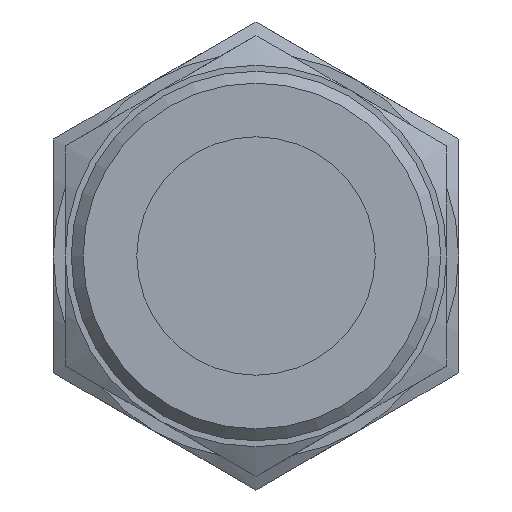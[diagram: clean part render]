
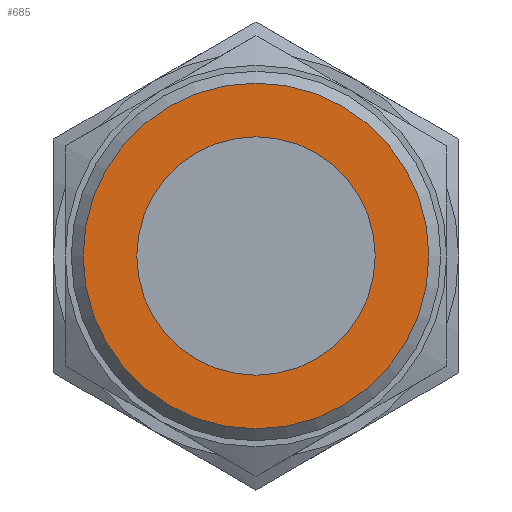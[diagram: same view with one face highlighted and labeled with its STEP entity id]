
A CAD part, left-side view. The second image highlights one B-rep face of the part: STEP entity #685.
In plain terms, the highlighted planar face has unit normal (-1, 0, 0).
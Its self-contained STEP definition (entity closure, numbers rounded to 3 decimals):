
#86=PLANE($,#750);
#115=FACE_BOUND($,#192,.T.);
#116=FACE_BOUND($,#193,.T.);
#192=EDGE_LOOP($,(#463));
#193=EDGE_LOOP($,(#464));
#253=CIRCLE($,#743,5.);
#255=CIRCLE($,#747,7.25);
#292=VERTEX_POINT($,#1041);
#294=VERTEX_POINT($,#1047);
#355=EDGE_CURVE($,#292,#292,#253,.T.);
#357=EDGE_CURVE($,#294,#294,#255,.T.);
#463=ORIENTED_EDGE($,*,*,#355,.T.);
#464=ORIENTED_EDGE($,*,*,#357,.F.);
#685=ADVANCED_FACE($,(#115,#116),#86,.F.);
#743=AXIS2_PLACEMENT_3D($,#1042,#846,#847);
#747=AXIS2_PLACEMENT_3D($,#1048,#854,#855);
#750=AXIS2_PLACEMENT_3D($,#1052,#860,#861);
#846=DIRECTION('center_axis',(1.,0.,0.));
#847=DIRECTION('ref_axis',(0.,-1.,0.));
#854=DIRECTION('center_axis',(1.,0.,0.));
#855=DIRECTION('ref_axis',(0.,0.,
-1.));
#860=DIRECTION('center_axis',(1.,0.,0.));
#861=DIRECTION('ref_axis',(0.,0.,-1.));
#1041=CARTESIAN_POINT('',(-24.5,-5.,0.));
#1042=CARTESIAN_POINT('Origin',(-24.5,0.,0.));
#1047=CARTESIAN_POINT('',(-24.5,0.,7.25));
#1048=CARTESIAN_POINT('Origin',(-24.5,0.,0.));
#1052=CARTESIAN_POINT('Origin',(-24.5,0.,0.));
